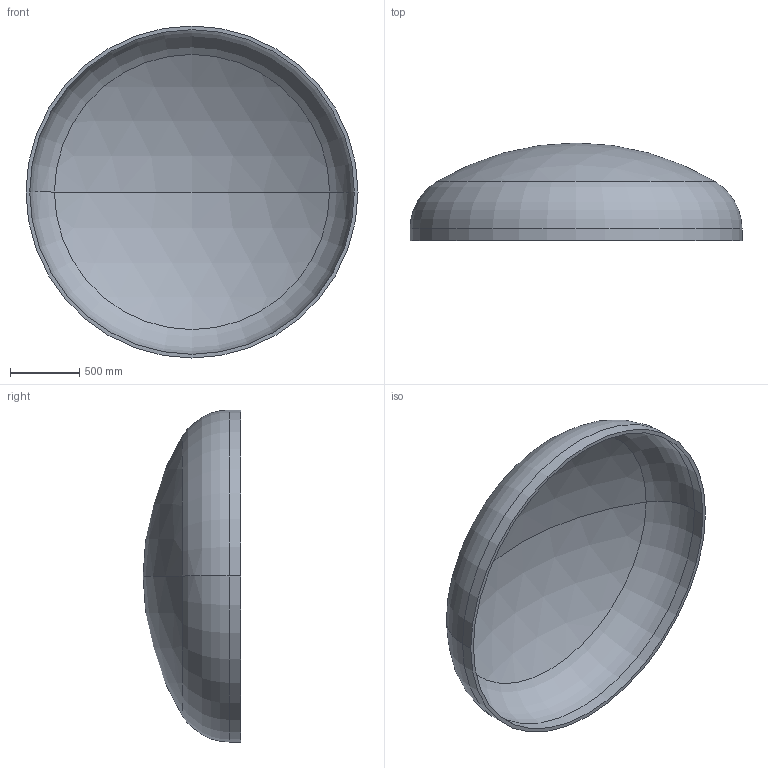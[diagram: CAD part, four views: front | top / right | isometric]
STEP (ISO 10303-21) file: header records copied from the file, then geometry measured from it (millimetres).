
FILE_DESCRIPTION (( 'STEP AP203' ), '1' );
FILE_NAME ('DIN 28013 Korbbogenform_-_Boden DIN 28013 - 2400 x 85 - I - s=27.step', '2016-07-01T15:13:42', ( '' ), ( '' ), 'SwSTEP 2.0', 'SolidWorks 2013', '' );
FILE_SCHEMA (( 'CONFIG_CONTROL_DESIGN' ));
Length unit declared in the file: millimetre
Products named in the file (1): DIN 28013 Korbbogenform_-_Boden DIN 28013 - 2400 x 85 - I - s=27
Bounding box: 2400 x 706.22 x 2400 mm (x, y, z)
Volume: 183815845.3 mm3; surface area: 13818795.4 mm2
Topology: 1 solids, 1 shells, 13 faces, 24 edges, 14 vertices
Faces by surface type: torus 4, cylinder 4, sphere 4, plane 1
Entity records: 407 total; most frequent: DIRECTION 72, CARTESIAN_POINT 52, ORIENTED_EDGE 48, AXIS2_PLACEMENT_3D 34, EDGE_CURVE 24, CIRCLE 20, VERTEX_POINT 14, EDGE_LOOP 14
